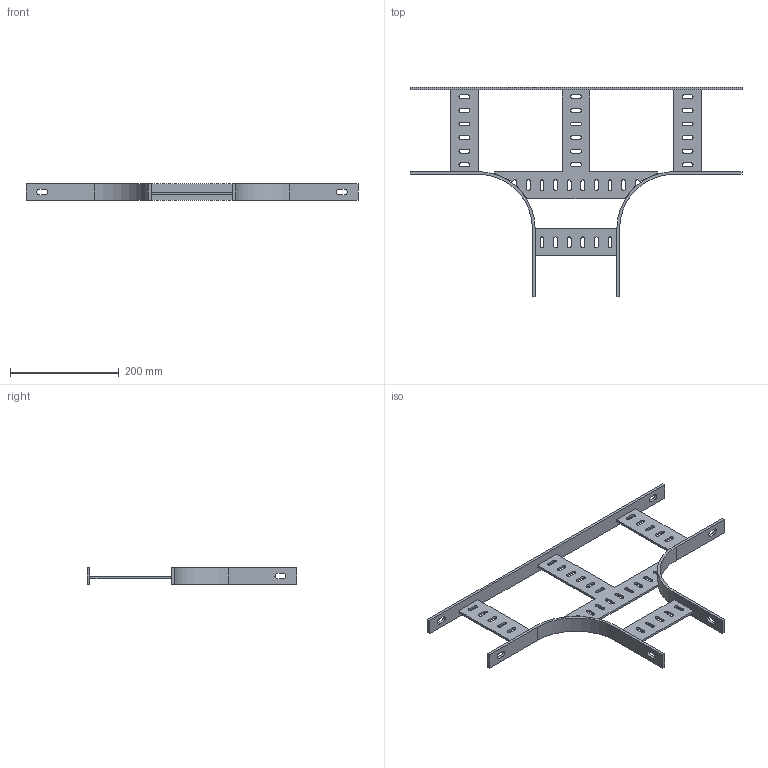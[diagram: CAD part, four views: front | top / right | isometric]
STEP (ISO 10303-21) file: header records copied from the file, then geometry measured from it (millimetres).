
FILE_DESCRIPTION(('Creo Elements/Direct Modeling STEP Export'),'2;1');
FILE_NAME('//pserver/office/EK/ME10-3D/3D-output/SLA 150F.stp','2020-03-10T15:09:58',(''),(''),'PTC Creo Elements/Direct Modeling STEP processor for AP214 (Solid Model)','PTC Creo Elements/Direct Modeling 19.0C 15-Aug-2015 (C) Parametric Technology GmbH','');
FILE_SCHEMA(('AUTOMOTIVE_DESIGN { 1 0 10303 214 1 1 1 1 }'));
Length unit declared in the file: millimetre
Products named in the file (2): SLA_150F
Assembly tree (1 placements, depth 2):
  SLA_150F
    SLA_150F
Bounding box: 610 x 385 x 30 mm (x, y, z)
Volume: 357954.4 mm3; surface area: 186856 mm2
Topology: 1 solids, 1 shells, 209 faces, 610 edges, 404 vertices
Faces by surface type: plane 127, cylinder 82
Entity records: 7096 total; most frequent: ORIENTED_EDGE 1220, CARTESIAN_POINT 1218, DIRECTION 1188, EDGE_CURVE 610, VECTOR 440, LINE 440, VERTEX_POINT 404, AXIS2_PLACEMENT_3D 374
